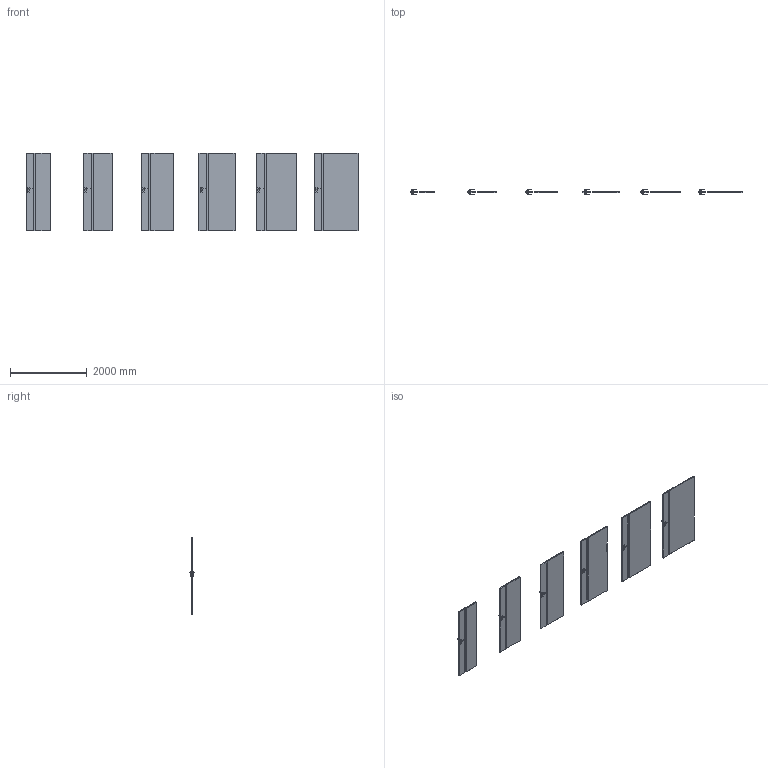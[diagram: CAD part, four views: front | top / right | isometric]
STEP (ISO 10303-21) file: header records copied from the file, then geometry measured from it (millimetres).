
FILE_DESCRIPTION(/* description */ (''),/* implementation_level */ '2;1');
FILE_NAME(/* name */ '049666_B_1-Skrzydło FOCUS model 4.A_ polska norma _PN__ odwrotna przylga..stp',/* time_stamp */ '2024-02-16T12:39:40+01:00',/* author */ (''),/* organization */ (''),/* preprocessor_version */ 'ST-DEVELOPER v16',/* originating_system */ 'SIEMENS PLM Software NX 11.0',/* authorisation */ '');
FILE_SCHEMA (('AUTOMOTIVE_DESIGN { 1 0 10303 214 3 1 1 1 }'));
Length unit declared in the file: millimetre
Products named in the file (1): bkni4C70E1ECxvwi
Bounding box: 8639 x 153.27 x 2027 mm (x, y, z)
Volume: 402964011.3 mm3; surface area: 24069135.6 mm2
Topology: 30 solids, 30 shells, 1164 faces, 2748 edges, 1536 vertices
Faces by surface type: plane 540, cylinder 264, bspline 192, sphere 168
Entity records: 38596 total; most frequent: CARTESIAN_POINT 13705, ORIENTED_EDGE 5160, DIRECTION 4886, EDGE_CURVE 2580, AXIS2_PLACEMENT_3D 1693, VERTEX_POINT 1536, LINE 1500, VECTOR 1500
